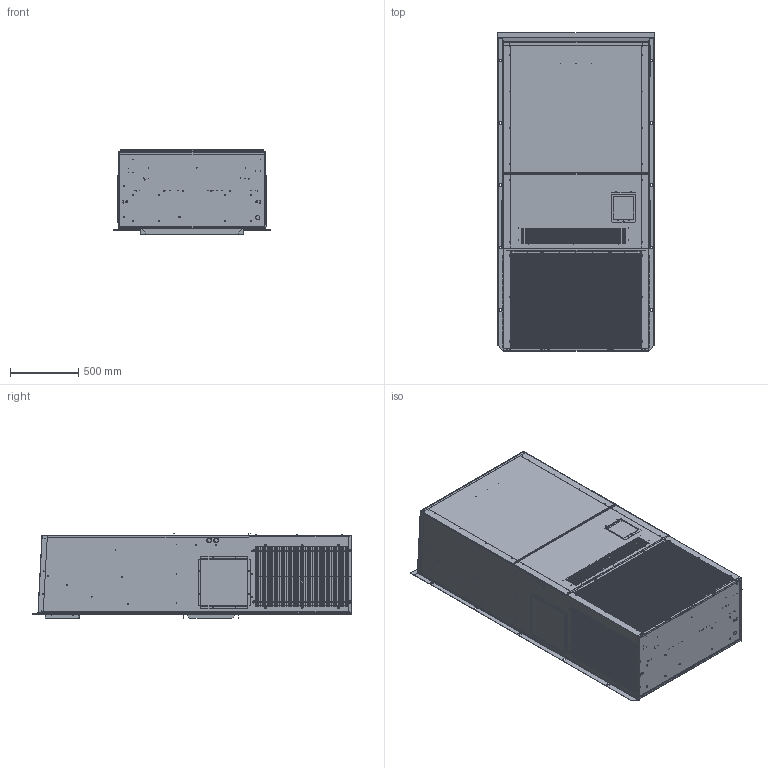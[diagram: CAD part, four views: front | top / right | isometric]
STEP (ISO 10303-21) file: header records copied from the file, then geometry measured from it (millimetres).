
FILE_DESCRIPTION (( 'STEP AP214' ), '1' );
FILE_NAME ('MAA1048H+N+1+D3.STEP', '2024-07-30T17:33:58', ( '' ), ( '' ), 'SwSTEP 2.0', 'SolidWorks 2022', '' );
FILE_SCHEMA (( 'AUTOMOTIVE_DESIGN' ));
Length unit declared in the file: inch
Products named in the file (23): BLOCK OFF - MAA1060A++++N++++1+++C2^MAA1048H-D3; SMM16066X; SMM23000X; SMM13149X; PD81397; SMM13133X_SMM13133X-IN; SMM13157X; SMM13156X; SMM13157X_SMM13157X-IN; SMM10000X; SMM23036X; SMM12002X; PD81397 PART 3^PD81397; SMM14093X; SMM12000X; SMM13133X; SMM13156X_SMM13156X-IN; d81396; MAA1048H+N+1+D3; SMM22000X; SMM13149X_SMM13149X-IN; PD81397 PART 2^PD81397
Assembly tree (33 placements, depth 3):
  MAA1048H+N+1+D3
    SMM10000X
    SMM12000X
    SMM12002X  x2
    SMM13133X_SMM13133X-IN  x2
      SMM13133X
    SMM13149X_SMM13149X-IN
      SMM13149X
    SMM13156X_SMM13156X-IN
      SMM13156X
    SMM13157X_SMM13157X-IN
      SMM13157X
    SMM14093X
    SMM16066X
    SMM22000X
    SMM23000X
    SMM23036X
    d81396  x2
    PD81397
      PD81397
      PD81397 PART 2^PD81397  x6
      PD81397 PART 3^PD81397  x4
    BLOCK OFF - MAA1060A++++N++++1+++C2^MAA1048H-D3
Bounding box: 1146.61 x 2336.47 x 618.83 mm (x, y, z)
Volume: 1323530210.1 mm3; surface area: 26011784.4 mm2
Topology: 227 solids, 227 shells, 4462 faces, 11086 edges, 7036 vertices
Faces by surface type: plane 2093, cylinder 1851, torus 312, bspline 182, sphere 16, cone 8
Entity records: 132384 total; most frequent: CARTESIAN_POINT 28255, DIRECTION 20924, ORIENTED_EDGE 20208, EDGE_CURVE 10104, AXIS2_PLACEMENT_3D 7651, VERTEX_POINT 6430, VECTOR 5622, LINE 5622
